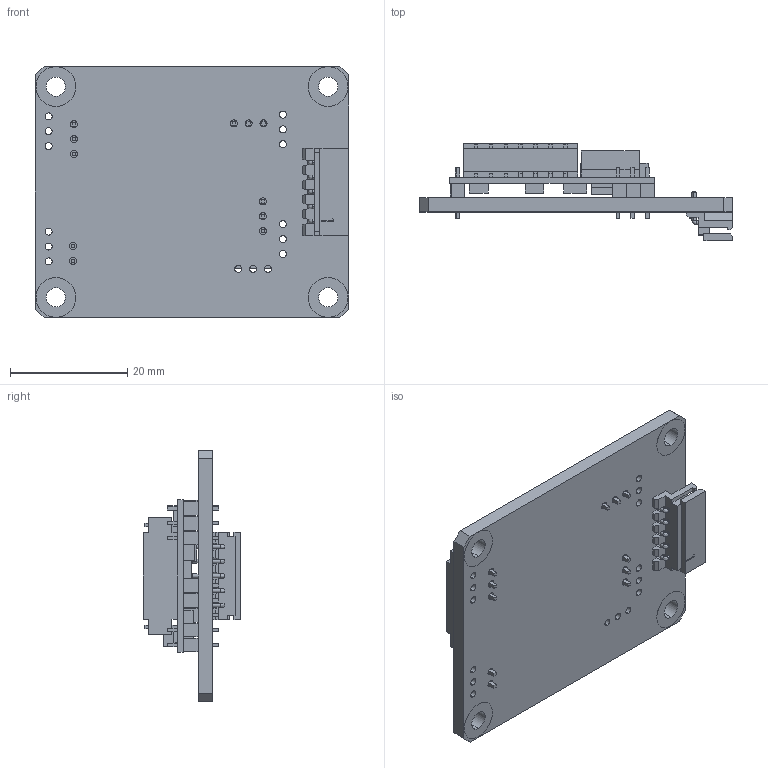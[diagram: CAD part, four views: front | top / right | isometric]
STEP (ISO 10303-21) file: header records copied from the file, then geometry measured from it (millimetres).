
FILE_DESCRIPTION (( 'STEP AP203' ), '1' );
FILE_NAME ('BSSP-F060W-B.STEP', '2016-07-23T16:51:31', ( 'gregory' ), ( '' ), 'SwSTEP 2.0', 'SolidWorks 2011', '' );
FILE_SCHEMA (( 'CONFIG_CONTROL_DESIGN' ));
Length unit declared in the file: millimetre
Products named in the file (1): BSSP-F060W-B
Bounding box: 53.5 x 16.69 x 43 mm (x, y, z)
Volume: 9495.5 mm3; surface area: 9195.8 mm2
Topology: 1 solids, 1 shells, 731 faces, 1905 edges, 1242 vertices
Faces by surface type: plane 588, cylinder 118, torus 20, bspline 5
Entity records: 23400 total; most frequent: CARTESIAN_POINT 5004, ORIENTED_EDGE 3790, DIRECTION 3620, EDGE_CURVE 1895, VECTOR 1584, LINE 1584, VERTEX_POINT 1242, AXIS2_PLACEMENT_3D 1018
